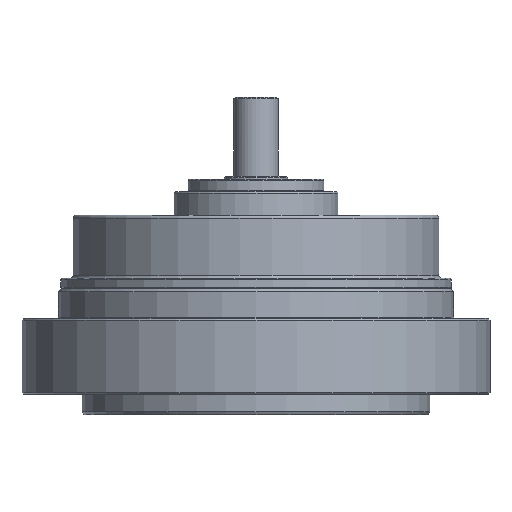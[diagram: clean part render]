
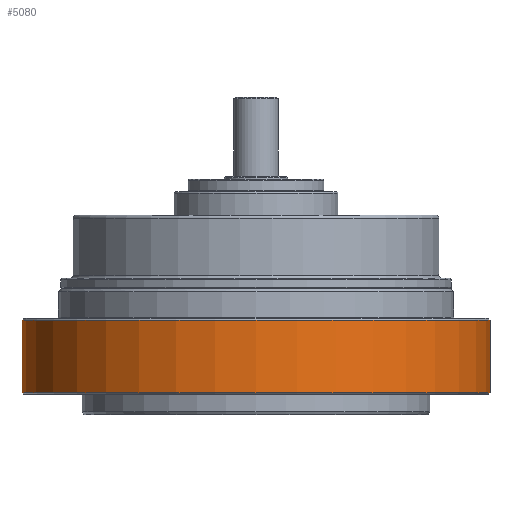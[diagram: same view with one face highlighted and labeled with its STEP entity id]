
A CAD part, front view. The second image highlights one B-rep face of the part: STEP entity #5080.
In plain terms, the highlighted cylindrical face has radius 74 mm (diameter 148 mm), a full revolution.
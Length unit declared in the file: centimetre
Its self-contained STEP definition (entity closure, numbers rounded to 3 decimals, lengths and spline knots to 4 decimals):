
#285=FACE_BOUND('',#1533,.T.);
#680=CIRCLE('',#5592,7.4);
#681=CIRCLE('',#5594,7.4);
#831=CYLINDRICAL_SURFACE('',#5593,7.4);
#1044=FACE_OUTER_BOUND('',#1532,.T.);
#1532=EDGE_LOOP('',(#3987));
#1533=EDGE_LOOP('',(#3988));
#2578=VERTEX_POINT('',#8235);
#2579=VERTEX_POINT('',#8238);
#3116=EDGE_CURVE('',#2578,#2578,#680,.T.);
#3117=EDGE_CURVE('',#2579,#2579,#681,.T.);
#3987=ORIENTED_EDGE('',*,*,#3117,.F.);
#3988=ORIENTED_EDGE('',*,*,#3116,.F.);
#5080=ADVANCED_FACE('',(#1044,#285),#831,.T.);
#5592=AXIS2_PLACEMENT_3D('',#8236,#6664,#6665);
#5593=AXIS2_PLACEMENT_3D('',#8237,#6666,#6667);
#5594=AXIS2_PLACEMENT_3D('',#8239,#6668,#6669);
#6664=DIRECTION('center_axis',(0.,0.,1.));
#6665=DIRECTION('ref_axis',(-1.,0.,0.));
#6666=DIRECTION('center_axis',(0.,0.,-1.));
#6667=DIRECTION('ref_axis',(1.,0.,0.));
#6668=DIRECTION('center_axis',(0.,0.,-1.));
#6669=DIRECTION('ref_axis',(-1.,0.,0.));
#8235=CARTESIAN_POINT('',(7.4,0.,3.));
#8236=CARTESIAN_POINT('Origin',(0.,0.,3.));
#8237=CARTESIAN_POINT('Origin',(0.,0.,1.75));
#8238=CARTESIAN_POINT('',(7.4,0.,0.7));
#8239=CARTESIAN_POINT('Origin',(0.,0.,0.7));
